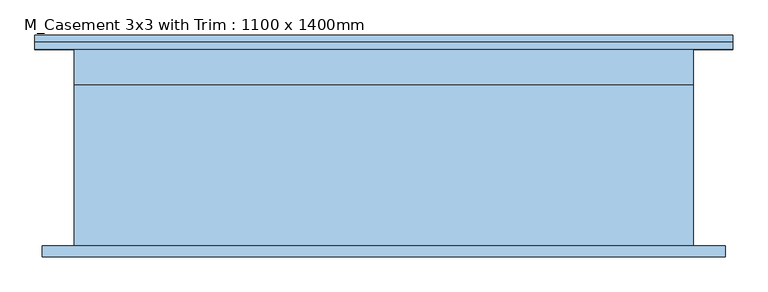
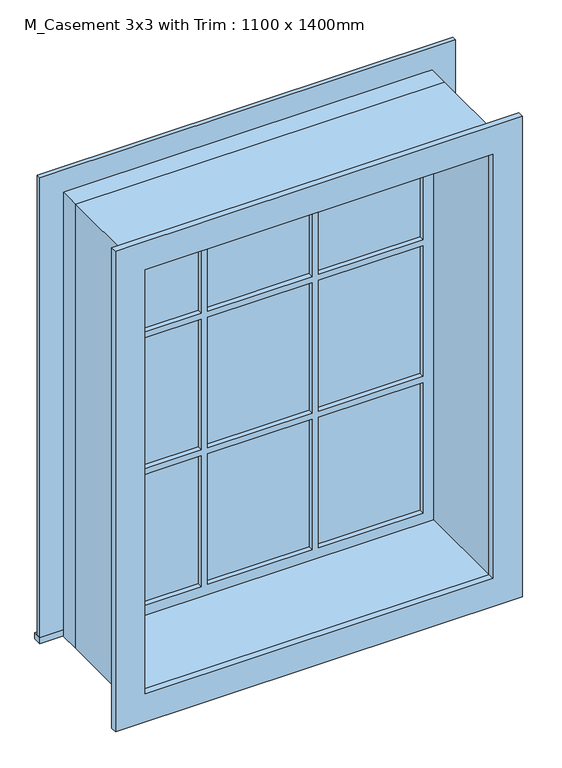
"""IFC4 building model written with IfcOpenShell, lengths in millimetres: window geometry, M_Casement 3x3 with Trim : 1100 x 1400mm."""

from ifc_helpers import new_model, si_unit, frame, origin, place, context, project, spatial, polyline, outline, extrude, source, transform, mapped, element, save


def m_casement_3x3_with_trim_1100_x_1400mm_61373874(model_context):
    return source(origin(), model_context, "Body", "SweptSolid", [
        extrude(outline(polyline([(-619.95, 200.7), (619.95, 200.7), (619.95, 175.0), (-619.95, 175.0), (-619.95, 200.7)])), frame((0.0, 0.0, 915.0), z_axis=(0.0, 0.0, 1.0), x_axis=(1.0, 0.0, 0.0)), (0.0, 0.0, 1.0), 19.05),
        extrude(outline(polyline([(2295.95, -530.95), (2295.95, 530.95), (934.05, 530.95), (934.05, 619.95), (2384.95, 619.95), (2384.95, -619.95), (934.05, -619.95), (934.05, -530.95), (2295.95, -530.95)])), frame((0.0, 175.0, 0.0), z_axis=(0.0, 1.0, 0.0), x_axis=(0.0, 0.0, 1.0)), (0.0, 0.0, 1.0), 13.0),
        extrude(outline(polyline([(174.8666667, 140.125), (486.5, 140.125), (486.5, 127.425), (174.8666667, 127.425), (174.8666667, 140.125)])), frame((0.0, 0.0, 1839.8666667), z_axis=(0.0, 0.0, 1.0), x_axis=(1.0, 0.0, 0.0)), (0.0, 0.0, 1.0), 411.6333333),
        extrude(outline(polyline([(-155.8166667, 140.125), (155.8166667, 140.125), (155.8166667, 127.425), (-155.8166667, 127.425), (-155.8166667, 140.125)])), frame((0.0, 0.0, 1839.8666667), z_axis=(0.0, 0.0, 1.0), x_axis=(1.0, 0.0, 0.0)), (0.0, 0.0, 1.0), 411.6333333),
        extrude(outline(polyline([(-486.5, 140.125), (-174.8666667, 140.125), (-174.8666667, 127.425), (-486.5, 127.425), (-486.5, 140.125)])), frame((0.0, 0.0, 1839.8666667), z_axis=(0.0, 0.0, 1.0), x_axis=(1.0, 0.0, 0.0)), (0.0, 0.0, 1.0), 411.6333333),
        extrude(outline(polyline([(-486.5, 140.125), (-174.8666667, 140.125), (-174.8666667, 127.425), (-486.5, 127.425), (-486.5, 140.125)])), frame((0.0, 0.0, 1409.1833333), z_axis=(0.0, 0.0, 1.0), x_axis=(1.0, 0.0, 0.0)), (0.0, 0.0, 1.0), 411.6333333),
        extrude(outline(polyline([(-155.8166667, 140.125), (155.8166667, 140.125), (155.8166667, 127.425), (-155.8166667, 127.425), (-155.8166667, 140.125)])), frame((0.0, 0.0, 1409.1833333), z_axis=(0.0, 0.0, 1.0), x_axis=(1.0, 0.0, 0.0)), (0.0, 0.0, 1.0), 411.6333333),
        extrude(outline(polyline([(174.8666667, 140.125), (486.5, 140.125), (486.5, 127.425), (174.8666667, 127.425), (174.8666667, 140.125)])), frame((0.0, 0.0, 1409.1833333), z_axis=(0.0, 0.0, 1.0), x_axis=(1.0, 0.0, 0.0)), (0.0, 0.0, 1.0), 411.6333333),
        extrude(outline(polyline([(174.8666667, 140.125), (486.5, 140.125), (486.5, 127.425), (174.8666667, 127.425), (174.8666667, 140.125)])), frame((0.0, 0.0, 978.5), z_axis=(0.0, 0.0, 1.0), x_axis=(1.0, 0.0, 0.0)), (0.0, 0.0, 1.0), 411.6333333),
        extrude(outline(polyline([(-155.8166667, 140.125), (155.8166667, 140.125), (155.8166667, 127.425), (-155.8166667, 127.425), (-155.8166667, 140.125)])), frame((0.0, 0.0, 978.5), z_axis=(0.0, 0.0, 1.0), x_axis=(1.0, 0.0, 0.0)), (0.0, 0.0, 1.0), 411.6333333),
        extrude(outline(polyline([(-486.5, 140.125), (-174.8666667, 140.125), (-174.8666667, 127.425), (-486.5, 127.425), (-486.5, 140.125)])), frame((0.0, 0.0, 978.5), z_axis=(0.0, 0.0, 1.0), x_axis=(1.0, 0.0, 0.0)), (0.0, 0.0, 1.0), 411.6333333),
        extrude(outline(polyline([(2372.25, 607.25), (2372.25, -607.25), (857.75, -607.25), (857.75, 607.25), (2372.25, 607.25)]), holes=[polyline([(2283.25, 518.25), (946.75, 518.25), (946.75, -518.25), (2283.25, -518.25), (2283.25, 518.25)])]), frame((0.0, -194.0, 0.0), z_axis=(0.0, 1.0, 0.0), x_axis=(0.0, 0.0, 1.0)), (0.0, 0.0, 1.0), 19.0),
        extrude(outline(polyline([(2295.95, -530.95), (934.05, -530.95), (934.05, 530.95), (2295.95, 530.95), (2295.95, -530.95)]), holes=[polyline([(2251.5, -174.8666667), (1839.8666667, -174.8666667), (1839.8666667, -486.5), (2251.5, -486.5), (2251.5, -174.8666667)]), polyline([(1820.8166667, -174.8666667), (1409.1833333, -174.8666667), (1409.1833333, -486.5), (1820.8166667, -486.5), (1820.8166667, -174.8666667)]), polyline([(1390.1333333, -174.8666667), (978.5, -174.8666667), (978.5, -486.5), (1390.1333333, -486.5), (1390.1333333, -174.8666667)]), polyline([(2251.5, 155.8166667), (1839.8666667, 155.8166667), (1839.8666667, -155.8166667), (2251.5, -155.8166667), (2251.5, 155.8166667)]), polyline([(1820.8166667, 155.8166667), (1409.1833333, 155.8166667), (1409.1833333, -155.8166667), (1820.8166667, -155.8166667), (1820.8166667, 155.8166667)]), polyline([(1390.1333333, 155.8166667), (978.5, 155.8166667), (978.5, -155.8166667), (1390.1333333, -155.8166667), (1390.1333333, 155.8166667)]), polyline([(2251.5, 486.5), (1839.8666667, 486.5), (1839.8666667, 174.8666667), (2251.5, 174.8666667), (2251.5, 486.5)]), polyline([(1820.8166667, 486.5), (1409.1833333, 486.5), (1409.1833333, 174.8666667), (1820.8166667, 174.8666667), (1820.8166667, 486.5)]), polyline([(1390.1333333, 486.5), (978.5, 486.5), (978.5, 174.8666667), (1390.1333333, 174.8666667), (1390.1333333, 486.5)])]), frame((0.0, 111.55, 0.0), z_axis=(0.0, 1.0, 0.0), x_axis=(0.0, 0.0, 1.0)), (0.0, 0.0, 1.0), 44.45),
        extrude(outline(polyline([(2315.0, -550.0), (915.0, -550.0), (915.0, 550.0), (2315.0, 550.0), (2315.0, -550.0)]), holes=[polyline([(2283.25, -518.25), (2283.25, 518.25), (946.75, 518.25), (946.75, -518.25), (2283.25, -518.25)])]), frame((0.0, -175.0, 0.0), z_axis=(0.0, 1.0, 0.0), x_axis=(0.0, 0.0, 1.0)), (0.0, 0.0, 1.0), 286.55),
        extrude(outline(polyline([(2315.0, 550.0), (2315.0, -550.0), (915.0, -550.0), (915.0, 550.0), (2315.0, 550.0)]), holes=[polyline([(2295.95, 530.95), (934.05, 530.95), (934.05, -530.95), (2295.95, -530.95), (2295.95, 530.95)])]), frame((0.0, 111.55, 0.0), z_axis=(0.0, 1.0, 0.0), x_axis=(0.0, 0.0, 1.0)), (0.0, 0.0, 1.0), 63.45),
    ])


if __name__ == "__main__":
    model = new_model("IFC4")
    model_context = context("Model", 3, world=origin())
    ifc_project = project(units=[si_unit("LENGTHUNIT", "METRE", prefix="MILLI")], contexts=[model_context])
    site = spatial("IfcSite", under=ifc_project)
    building = spatial("IfcBuilding", under=site)
    placement = place(None, origin())
    m_casement_3x3_with_trim_1100_x_1400mm_shape = m_casement_3x3_with_trim_1100_x_1400mm_61373874(model_context)
    element("IfcWindow", 1, ObjectType="M_Casement 3x3 with Trim : 1100 x 1400mm", at=placement, inside=building, context=model_context, shape_type="MappedRepresentation", body=[
        mapped(m_casement_3x3_with_trim_1100_x_1400mm_shape, transform((0.0, 0.0, 0.0), x_axis=(1.0, 0.0, 0.0), y_axis=(0.0, 1.0, 0.0), z_axis=(0.0, 0.0, 1.0))),
    ])
    save(model, "model.ifc")
